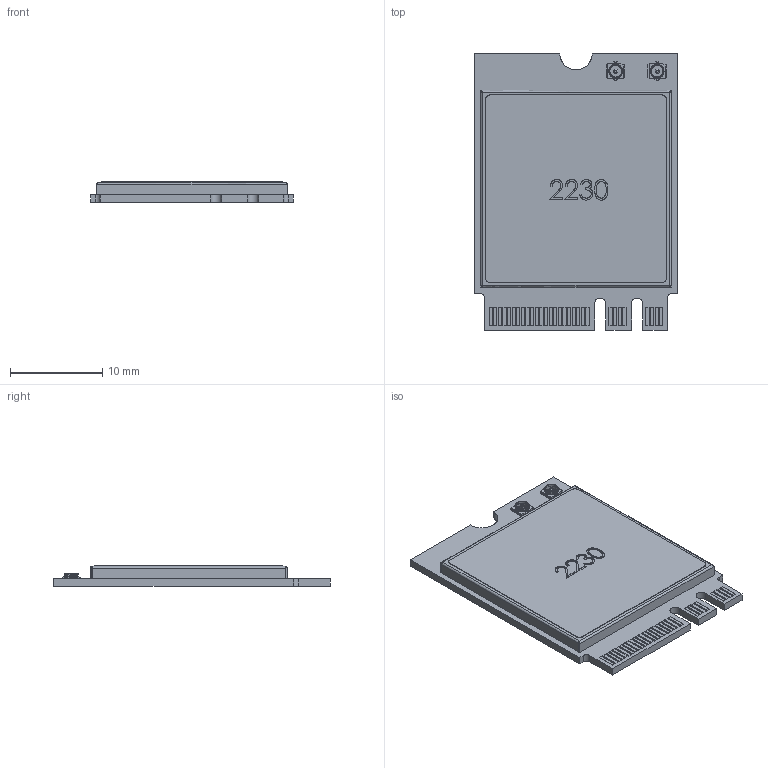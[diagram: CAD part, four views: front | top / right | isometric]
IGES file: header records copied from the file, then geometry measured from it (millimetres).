
Start section: SolidWorks IGES file using analytic representation for surfaces
Global section: file name: M:\06 Intern_projects\2017_Jesse_Melhorn\3D MKT\TyP 2230\TyP_2230_2CONN_R01.IGS; native system: SolidWorks 2019; preprocessor: SolidWorks 2019; author: jmelhorn; date: 200623.114949; units: millimetre
Bounding box: 22 x 30 x 2.25 mm (x, y, z)
Surface area: 3294.8 mm2 (no closed solid volume)
Topology: 0 solids, 0 shells, 531 faces, 3532 edges, 3532 vertices
Faces by surface type: bspline 473, revolution 58
